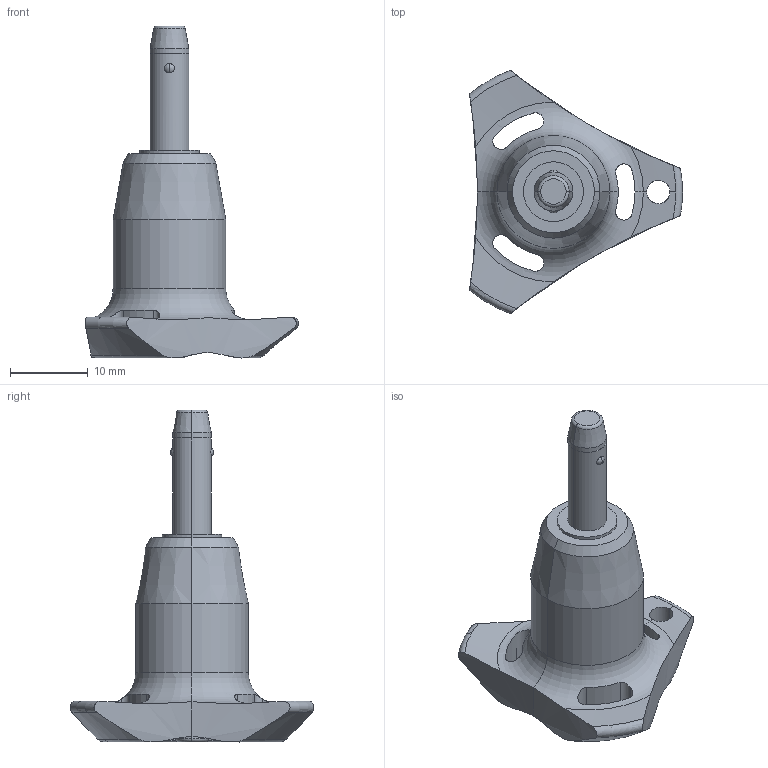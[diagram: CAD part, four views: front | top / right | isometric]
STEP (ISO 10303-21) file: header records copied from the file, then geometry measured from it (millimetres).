
FILE_DESCRIPTION (( 'STEP AP203' ), '1' );
FILE_NAME ('QR1716.M05-010-T.step', '2025-11-13T10:23:23', ( '' ), ( '' ), 'SwSTEP 2.0', 'SolidWorks 2019', '' );
FILE_SCHEMA (( 'CONFIG_CONTROL_DESIGN' ));
Length unit declared in the file: millimetre
Products named in the file (1): QR1716.M05-010-T
Bounding box: 27.4 x 31.31 x 42.7 mm (x, y, z)
Volume: 5064.3 mm3; surface area: 2665.5 mm2
Topology: 1 solids, 1 shells, 69 faces, 187 edges, 119 vertices
Faces by surface type: cylinder 32, cone 14, torus 12, sphere 6, plane 5
Entity records: 2773 total; most frequent: CARTESIAN_POINT 994, ORIENTED_EDGE 374, DIRECTION 348, EDGE_CURVE 187, AXIS2_PLACEMENT_3D 155, VERTEX_POINT 119, CIRCLE 85, EDGE_LOOP 76
